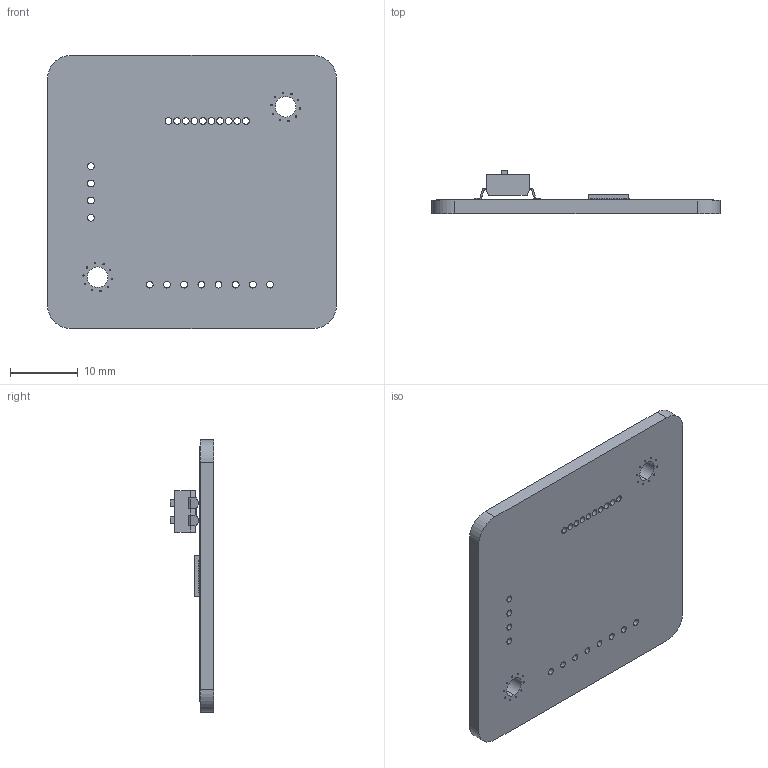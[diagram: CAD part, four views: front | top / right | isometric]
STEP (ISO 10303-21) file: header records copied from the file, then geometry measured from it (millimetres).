
FILE_DESCRIPTION(('FreeCAD Model'),'2;1');
FILE_NAME('Open CASCADE Shape Model','2026-03-30T21:02:43',('Author'),( ''),'Open CASCADE STEP processor 7.8','FreeCAD','Unknown');
FILE_SCHEMA(('AUTOMOTIVE_DESIGN { 1 0 10303 214 1 1 1 1 }'));
Length unit declared in the file: millimetre
Products named in the file (9): PN532_NFC_Assembly; NFC_MODULE_1; QFN40 (6x6)_006; QFN40 (6x6)_1; QFN40 (6x6)_002; QFN40 (6x6)_003; QFN40 (6x6)_004; QFN40 (6x6)_005; Switch_2_1
Assembly tree (8 placements, depth 3):
  PN532_NFC_Assembly
    NFC_MODULE_1
    QFN40 (6x6)_006
      QFN40 (6x6)_1
      QFN40 (6x6)_002
      QFN40 (6x6)_003
      QFN40 (6x6)_004
      QFN40 (6x6)_005
    Switch_2_1
Bounding box: 42.7 x 6.45 x 40.4 mm (x, y, z)
Volume: 3558.9 mm3; surface area: 4250 mm2
Topology: 7 solids, 7 shells, 1307 faces, 3632 edges, 2431 vertices
Faces by surface type: plane 746, bspline 302, cylinder 259
Entity records: 62850 total; most frequent: CARTESIAN_POINT 27567, ORIENTED_EDGE 7264, DIRECTION 5465, EDGE_CURVE 3632, LINE 2457, VECTOR 2457, VERTEX_POINT 2431, AXIS2_PLACEMENT_3D 1504
